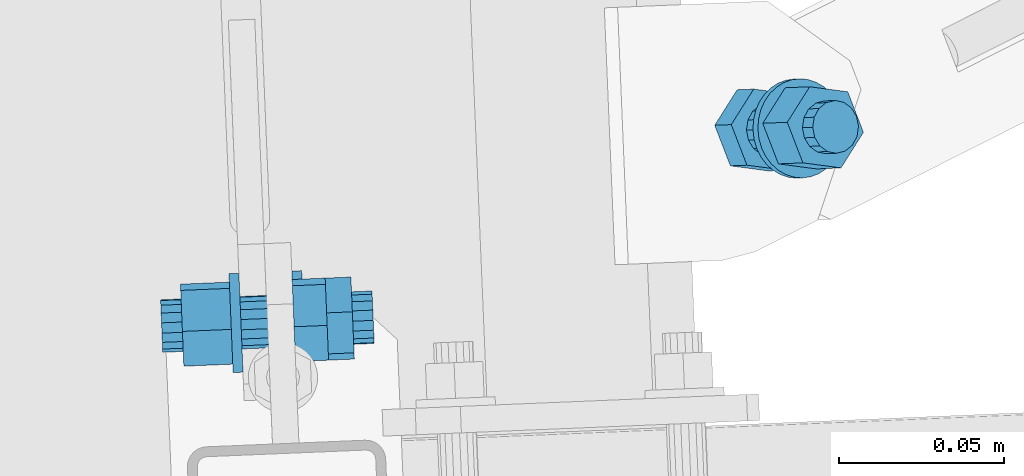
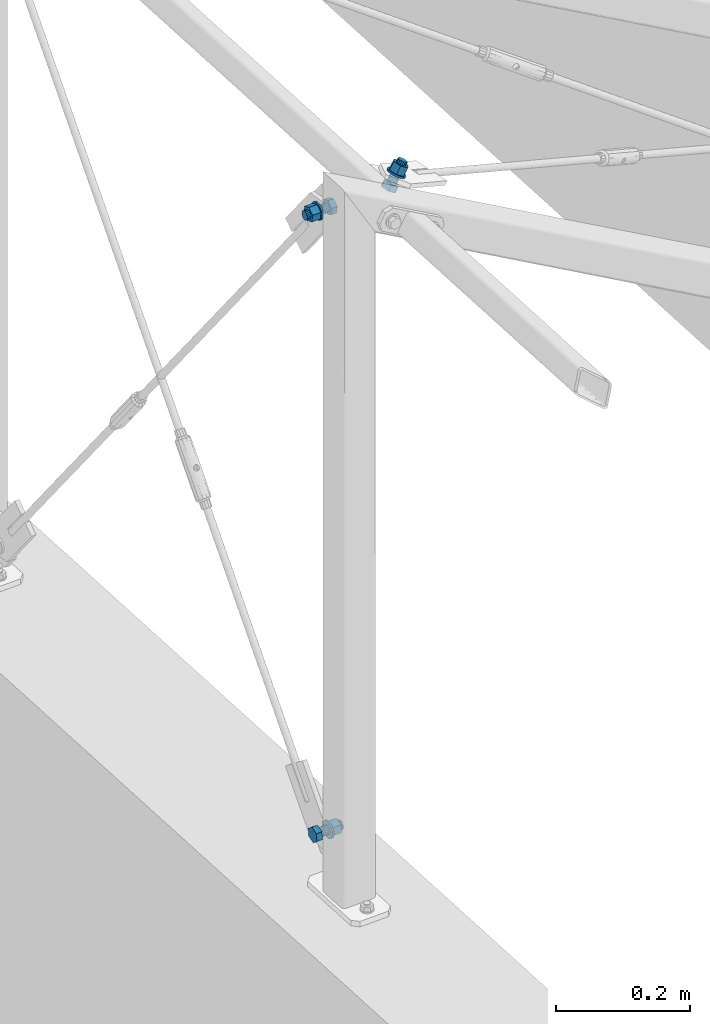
# One storey, part 215 of 288: 3 mechanical fasteners.
"""IFC2X3 building model written with IfcOpenShell, lengths in millimetres."""

from ifc_helpers import new_model, entity, si_unit, converted_unit, origin_with_axes, place, context, project, spatial, faceted_brep, element, save


model = new_model("IFC2X3")

# Units and contexts
model_context = context("Model", 3, precision=1e-09, world=origin_with_axes())
ifc_project = project(units=[si_unit("LENGTHUNIT", "METRE", prefix="MILLI"), si_unit("AREAUNIT", "SQUARE_METRE"), si_unit("VOLUMEUNIT", "CUBIC_METRE"), converted_unit("PLANEANGLEUNIT", "DEGREE", entity("IfcPlaneAngleMeasure", 0.01745329), si_unit("PLANEANGLEUNIT", "RADIAN"), dimensions=[0, 0, 0, 0, 0, 0, 0])], contexts=[model_context])

# Site, building, storey
site_placement = place(None, origin_with_axes())
site = spatial("IfcSite", under=ifc_project, at=site_placement, Name="Remont ?wietlik?w nad MC w NCPP w Opolu", CompositionType="ELEMENT")
building_placement = place(site_placement, origin_with_axes())
building = spatial("IfcBuilding", under=site, at=building_placement, Name="Konstrukcja 1", CompositionType="ELEMENT")
storey_placement = place(building_placement, origin_with_axes())
storey = spatial("IfcBuildingStorey", under=building, at=storey_placement, Name="Default Storey", CompositionType="ELEMENT", Elevation=0.0)

# Mechanical fasteners
mechanical_fastener_1_placement = place(None, origin_with_axes())
element("IfcMechanicalFastener", 1, at=mechanical_fastener_1_placement, inside=storey, ObjectType="Bolt#1", NominalDiameter=16.0, NominalLength=40.0, context=model_context, shape_type="Brep", body=[
    faceted_brep([(-289.51059821, 4038.588111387, 1206.349235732), (-279.519289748, 4039.004950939, 1206.349235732), (-279.001880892, 4026.603077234, 1211.330846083), (-288.993189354, 4026.186237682, 1211.330846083), (-278.92300943, 4024.712591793, 1224.571332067), (-288.914317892, 4024.295752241, 1224.571332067), (-279.361546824, 4035.223980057, 1232.8302077), (-289.352855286, 4034.807140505, 1232.8302077), (-279.87895568, 4047.625853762, 1227.848597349), (-289.870264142, 4047.20901421, 1227.848597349), (-279.957827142, 4049.516339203, 1214.608111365), (-289.949135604, 4049.099499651, 1214.608111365)], [[[0, 1, 2, 3]], [[3, 2, 4, 5]], [[5, 4, 6, 7]], [[7, 6, 8, 9]], [[9, 8, 10, 11]], [[11, 10, 1, 0]], [[4, 2, 1, 10, 8, 6]], [[0, 3, 5, 7, 9, 11]]]),
    faceted_brep([(-289.225812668, 4031.762031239, 1225.882376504), (-305.211906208, 4031.095087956, 1225.882376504), (-305.127201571, 4029.064786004, 1223.512963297), (-289.141108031, 4029.731729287, 1223.512963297), (-305.086740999, 4028.094978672, 1220.546272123), (-289.10064746, 4028.761921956, 1220.546272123), (-305.096684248, 4028.333310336, 1217.433954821), (-289.110590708, 4029.000253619, 1217.433954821), (-305.155517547, 4029.743497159, 1214.649833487), (-289.169424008, 4030.410440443, 1214.649833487), (-305.254284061, 4032.110850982, 1212.617765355), (-289.268190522, 4032.777794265, 1212.617765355), (-305.377947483, 4035.074963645, 1211.647114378), (-289.391853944, 4035.741906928, 1211.647114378), (-305.507681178, 4038.184575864, 1211.885653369), (-289.521587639, 4038.851519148, 1211.885653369), (-305.623734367, 4040.966277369, 1213.297066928), (-289.637640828, 4041.633220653, 1213.297066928), (-305.708439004, 4042.996579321, 1215.666480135), (-289.722345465, 4043.663522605, 1215.666480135), (-305.748899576, 4043.966386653, 1218.633171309), (-289.762806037, 4044.633329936, 1218.633171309), (-305.738956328, 4043.72805499, 1221.745488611), (-289.752862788, 4044.394998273, 1221.745488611), (-305.680123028, 4042.317868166, 1224.529609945), (-289.694029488, 4042.98481145, 1224.529609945), (-305.581356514, 4039.950514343, 1226.561678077), (-289.595262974, 4040.617457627, 1226.561678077), (-305.457693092, 4036.98640168, 1227.532329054), (-289.471599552, 4037.653344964, 1227.532329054), (-305.327959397, 4033.876789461, 1227.293790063), (-289.341865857, 4034.543732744, 1227.293790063)], [[[0, 1, 2, 3]], [[3, 2, 4, 5]], [[5, 4, 6, 7]], [[7, 6, 8, 9]], [[9, 8, 10, 11]], [[11, 10, 12, 13]], [[13, 12, 14, 15]], [[15, 14, 16, 17]], [[17, 16, 18, 19]], [[19, 18, 20, 21]], [[21, 20, 22, 23]], [[23, 22, 24, 25]], [[25, 24, 26, 27]], [[27, 26, 28, 29]], [[29, 28, 30, 31]], [[31, 30, 1, 0]], [[0, 3, 5, 7, 9, 11, 13, 15, 17, 19, 21, 23, 25, 27, 29, 31]], [[1, 30, 28, 26, 24, 22, 20, 18, 16, 14, 12, 10, 8, 6, 4, 2]]]),
    faceted_brep([(-305.031731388, 4026.776442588, 1231.388449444), (-308.029123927, 4026.651390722, 1231.388449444), (-307.940593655, 4024.529391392, 1229.354756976), (-304.943201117, 4024.654443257, 1229.354756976), (-307.870302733, 4022.844574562, 1226.94579968), (-304.872910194, 4022.969626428, 1226.94579968), (-307.820952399, 4021.661686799, 1224.254152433), (-304.82355986, 4021.786738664, 1224.254152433), (-307.79443916, 4021.026185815, 1221.38325373), (-304.797046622, 4021.151237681, 1221.38325373), (-307.791781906, 4020.962493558, 1218.443430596), (-304.794389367, 4021.087545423, 1218.443430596), (-307.813082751, 4021.473057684, 1215.547658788), (-304.815690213, 4021.59810955, 1215.547658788), (-307.857523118, 4022.538257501, 1212.807221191), (-304.86013058, 4022.663309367, 1212.807221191), (-307.923395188, 4024.117157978, 1210.327431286), (-304.926002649, 4024.242209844, 1210.327431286), (-308.008167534, 4026.149082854, 1208.203586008), (-305.010774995, 4026.274134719, 1208.203586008), (-308.108582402, 4028.555946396, 1206.517303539), (-305.111189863, 4028.680998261, 1206.517303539), (-308.220780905, 4031.245254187, 1205.33338677), (-305.223388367, 4031.370306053, 1205.33338677), (-308.340451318, 4034.113657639, 1204.697332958), (-305.34305878, 4034.238709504, 1204.697332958), (-308.462994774, 4037.050925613, 1204.633585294), (-305.465602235, 4037.175977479, 1204.633585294), (-308.583701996, 4039.944180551, 1205.144593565), (-305.586309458, 4040.069232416, 1205.144593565), (-308.697934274, 4042.682236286, 1206.210720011), (-305.700541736, 4042.807288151, 1206.210720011), (-308.801301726, 4045.159870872, 1207.790993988), (-305.803909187, 4045.284922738, 1207.790993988), (-308.889831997, 4047.281870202, 1209.824686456), (-305.892439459, 4047.406922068, 1209.824686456), (-308.96012292, 4048.966687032, 1212.233643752), (-305.962730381, 4049.091738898, 1212.233643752), (-309.009473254, 4050.149574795, 1214.925290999), (-306.012080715, 4050.274626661, 1214.925290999), (-309.035986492, 4050.785075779, 1217.796189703), (-306.038593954, 4050.910127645, 1217.796189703), (-309.038643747, 4050.848768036, 1220.736012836), (-306.041251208, 4050.973819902, 1220.736012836), (-309.017342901, 4050.33820391, 1223.631784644), (-306.019950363, 4050.463255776, 1223.631784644), (-308.972902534, 4049.273004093, 1226.372222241), (-305.975509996, 4049.398055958, 1226.372222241), (-308.907030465, 4047.694103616, 1228.852012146), (-305.909637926, 4047.819155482, 1228.852012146), (-308.822258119, 4045.66217874, 1230.975857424), (-305.82486558, 4045.787230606, 1230.975857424), (-308.721843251, 4043.255315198, 1232.662139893), (-305.724450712, 4043.380367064, 1232.662139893), (-308.609644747, 4040.566007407, 1233.846056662), (-305.612252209, 4040.691059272, 1233.846056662), (-308.489974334, 4037.697603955, 1234.482110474), (-305.492581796, 4037.822655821, 1234.482110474), (-308.367430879, 4034.760335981, 1234.545858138), (-305.37003834, 4034.885387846, 1234.545858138), (-308.246723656, 4031.867081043, 1234.034849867), (-305.249331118, 4031.992132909, 1234.034849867), (-308.132491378, 4029.129025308, 1232.968723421), (-305.13509884, 4029.254077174, 1232.968723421)], [[[0, 1, 2, 3]], [[3, 2, 4, 5]], [[5, 4, 6, 7]], [[7, 6, 8, 9]], [[9, 8, 10, 11]], [[11, 10, 12, 13]], [[13, 12, 14, 15]], [[15, 14, 16, 17]], [[17, 16, 18, 19]], [[19, 18, 20, 21]], [[21, 20, 22, 23]], [[23, 22, 24, 25]], [[25, 24, 26, 27]], [[27, 26, 28, 29]], [[29, 28, 30, 31]], [[31, 30, 32, 33]], [[33, 32, 34, 35]], [[35, 34, 36, 37]], [[37, 36, 38, 39]], [[39, 38, 40, 41]], [[41, 40, 42, 43]], [[43, 42, 44, 45]], [[45, 44, 46, 47]], [[47, 46, 48, 49]], [[49, 48, 50, 51]], [[51, 50, 52, 53]], [[53, 52, 54, 55]], [[55, 54, 56, 57]], [[57, 56, 58, 59]], [[59, 58, 60, 61]], [[61, 60, 62, 63]], [[63, 62, 1, 0]], [[0, 3, 5, 7, 9, 11, 13, 15, 17, 19, 21, 23, 25, 27, 29, 31, 33, 35, 37, 39, 41, 43, 45, 47, 49, 51, 53, 55, 57, 59, 61, 63]], [[1, 62, 60, 58, 56, 54, 52, 50, 48, 46, 44, 42, 40, 38, 36, 34, 32, 30, 28, 26, 24, 22, 20, 18, 16, 14, 12, 10, 8, 6, 4, 2]]]),
    faceted_brep([(-323.281220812, 4037.179193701, 1206.349235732), (-308.494084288, 4037.796116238, 1206.349235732), (-307.976675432, 4025.394242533, 1211.330846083), (-322.763811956, 4024.777319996, 1211.330846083), (-307.89780397, 4023.503757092, 1224.571332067), (-322.684940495, 4022.886834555, 1224.571332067), (-308.336341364, 4034.015145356, 1232.8302077), (-323.123477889, 4033.398222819, 1232.8302077), (-308.85375022, 4046.417019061, 1227.848597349), (-323.640886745, 4045.800096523, 1227.848597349), (-308.932621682, 4048.307504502, 1214.608111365), (-323.719758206, 4047.690581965, 1214.608111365)], [[[0, 1, 2, 3]], [[3, 2, 4, 5]], [[5, 4, 6, 7]], [[7, 6, 8, 9]], [[9, 8, 10, 11]], [[11, 10, 1, 0]], [[4, 2, 1, 10, 8, 6]], [[0, 3, 5, 7, 9, 11]]]),
    faceted_brep([(-322.996435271, 4030.353113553, 1225.882376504), (-329.191046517, 4030.094673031, 1225.882376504), (-329.10634188, 4028.064371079, 1223.512963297), (-322.911730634, 4028.322811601, 1223.512963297), (-329.065881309, 4027.094563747, 1220.546272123), (-322.871270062, 4027.353004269, 1220.546272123), (-329.075824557, 4027.332895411, 1217.433954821), (-322.881213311, 4027.591335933, 1217.433954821), (-329.134657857, 4028.743082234, 1214.649833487), (-322.94004661, 4029.001522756, 1214.649833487), (-329.233424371, 4031.110436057, 1212.617765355), (-323.038813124, 4031.368876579, 1212.617765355), (-329.357087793, 4034.07454872, 1211.647114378), (-323.162476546, 4034.332989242, 1211.647114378), (-329.486821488, 4037.184160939, 1211.885653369), (-323.292210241, 4037.442601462, 1211.885653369), (-329.602874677, 4039.965862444, 1213.297066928), (-323.40826343, 4040.224302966, 1213.297066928), (-329.687579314, 4041.996164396, 1215.666480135), (-323.492968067, 4042.254604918, 1215.666480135), (-329.728039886, 4042.965971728, 1218.633171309), (-323.533428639, 4043.22441225, 1218.633171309), (-329.718096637, 4042.727640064, 1221.745488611), (-323.52348539, 4042.986080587, 1221.745488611), (-329.659263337, 4041.317453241, 1224.529609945), (-323.464652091, 4041.575893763, 1224.529609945), (-329.560496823, 4038.950099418, 1226.561678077), (-323.365885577, 4039.20853994, 1226.561678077), (-329.436833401, 4035.985986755, 1227.532329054), (-323.242222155, 4036.244427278, 1227.532329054), (-329.307099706, 4032.876374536, 1227.293790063), (-323.11248846, 4033.134815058, 1227.293790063)], [[[0, 1, 2, 3]], [[3, 2, 4, 5]], [[5, 4, 6, 7]], [[7, 6, 8, 9]], [[9, 8, 10, 11]], [[11, 10, 12, 13]], [[13, 12, 14, 15]], [[15, 14, 16, 17]], [[17, 16, 18, 19]], [[19, 18, 20, 21]], [[21, 20, 22, 23]], [[23, 22, 24, 25]], [[25, 24, 26, 27]], [[27, 26, 28, 29]], [[29, 28, 30, 31]], [[31, 30, 1, 0]], [[0, 3, 5, 7, 9, 11, 13, 15, 17, 19, 21, 23, 25, 27, 29, 31]], [[1, 30, 28, 26, 24, 22, 20, 18, 16, 14, 12, 10, 8, 6, 4, 2]]]),
])
mechanical_fastener_2_placement = place(None, origin_with_axes())
element("IfcMechanicalFastener", 2, at=mechanical_fastener_2_placement, inside=storey, ObjectType="Bolt#1", NominalDiameter=16.0, NominalLength=40.0, context=model_context, shape_type="Brep", body=[
    faceted_brep([(-305.507418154, 4037.920817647, 98.650764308), (-315.498736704, 4037.504219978, 98.650764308), (-314.98162809, 4025.102333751, 93.669153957), (-304.990309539, 4025.51893142, 93.669153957), (-314.902802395, 4023.211846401, 80.428667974), (-304.911483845, 4023.62844407, 80.428667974), (-315.341085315, 4033.723245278, 72.16979234), (-305.349766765, 4034.139842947, 72.16979234), (-315.85819393, 4046.125131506, 77.151402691), (-305.866875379, 4046.541729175, 77.151402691), (-315.937019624, 4048.015618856, 90.391888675), (-305.945701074, 4048.432216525, 90.391888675)], [[[0, 1, 2, 3]], [[3, 2, 4, 5]], [[5, 4, 6, 7]], [[7, 6, 8, 9]], [[9, 8, 10, 11]], [[11, 10, 1, 0]], [[4, 2, 1, 10, 8, 6]], [[0, 3, 5, 7, 9, 11]]]),
    faceted_brep([(-305.222797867, 4031.094730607, 79.117623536), (-289.236688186, 4031.761286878, 79.117623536), (-289.152032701, 4029.730982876, 81.487036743), (-305.138142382, 4029.064426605, 81.487036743), (-289.111595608, 4028.761174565, 84.453727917), (-305.097705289, 4028.094618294, 84.453727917), (-289.121533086, 4028.999506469, 87.566045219), (-305.107642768, 4028.332950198, 87.566045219), (-289.180332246, 4030.409694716, 90.350166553), (-305.166441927, 4029.743138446, 90.350166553), (-289.279041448, 4032.777050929, 92.382234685), (-305.265151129, 4032.110494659, 92.382234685), (-289.402633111, 4035.741166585, 93.352885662), (-305.388742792, 4035.074610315, 93.352885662), (-289.532291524, 4038.850781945, 93.114346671), (-305.518401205, 4038.184225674, 93.114346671), (-289.64827737, 4041.632486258, 91.702933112), (-305.634387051, 4040.965929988, 91.702933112), (-289.732932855, 4043.66279026, 89.333519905), (-305.719042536, 4042.99623399, 89.333519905), (-289.773369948, 4044.632598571, 86.366828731), (-305.759479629, 4043.966042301, 86.366828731), (-289.763432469, 4044.394266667, 83.254511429), (-305.749542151, 4043.727710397, 83.254511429), (-289.70463331, 4042.98407842, 80.470390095), (-305.690742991, 4042.317522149, 80.470390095), (-289.605924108, 4040.616722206, 78.438321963), (-305.592033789, 4039.950165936, 78.438321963), (-289.482332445, 4037.652606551, 77.467670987), (-305.468442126, 4036.98605028, 77.467670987), (-289.352674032, 4034.542991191, 77.706209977), (-305.338783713, 4033.876434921, 77.706209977)], [[[0, 1, 2, 3]], [[3, 2, 4, 5]], [[5, 4, 6, 7]], [[7, 6, 8, 9]], [[9, 8, 10, 11]], [[11, 10, 12, 13]], [[13, 12, 14, 15]], [[15, 14, 16, 17]], [[17, 16, 18, 19]], [[19, 18, 20, 21]], [[21, 20, 22, 23]], [[23, 22, 24, 25]], [[25, 24, 26, 27]], [[27, 26, 28, 29]], [[29, 28, 30, 31]], [[31, 30, 1, 0]], [[0, 3, 5, 7, 9, 11, 13, 15, 17, 19, 21, 23, 25, 27, 29, 31]], [[1, 30, 28, 26, 24, 22, 20, 18, 16, 14, 12, 10, 8, 6, 4, 2]]]),
    faceted_brep([(-289.056617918, 4027.442637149, 73.611550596), (-286.059222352, 4027.567616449, 73.611550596), (-285.970743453, 4025.445614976, 75.645243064), (-288.968139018, 4025.320635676, 75.645243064), (-285.900493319, 4023.760796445, 78.05420036), (-288.897888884, 4023.635817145, 78.05420036), (-285.851171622, 4022.577907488, 80.745847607), (-288.848567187, 4022.452928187, 80.745847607), (-285.824673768, 4021.942405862, 83.616746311), (-288.822069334, 4021.817426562, 83.616746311), (-285.822018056, 4021.878713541, 86.556569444), (-288.819413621, 4021.75373424, 86.556569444), (-285.843306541, 4022.389278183, 89.452341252), (-288.840702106, 4022.264298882, 89.452341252), (-285.88772112, 4023.454479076, 92.192778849), (-288.885116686, 4023.329499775, 92.192778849), (-285.953554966, 4025.033381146, 94.672568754), (-288.950950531, 4024.908401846, 94.672568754), (-286.03827812, 4027.065308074, 96.796414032), (-289.035673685, 4026.940328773, 96.796414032), (-286.138634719, 4029.472174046, 98.482696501), (-289.136030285, 4029.347194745, 98.482696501), (-286.250768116, 4032.161484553, 99.66661327), (-289.248163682, 4032.036505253, 99.66661327), (-286.370369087, 4035.029890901, 100.302667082), (-289.367764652, 4034.9049116, 100.302667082), (-286.492841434, 4037.967161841, 100.366414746), (-289.490236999, 4037.842182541, 100.366414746), (-286.613478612, 4040.8604197, 99.855406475), (-289.610874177, 4040.735440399, 99.855406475), (-286.727644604, 4043.5984782, 98.78928003), (-289.725040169, 4043.473498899, 98.78928003), (-286.830952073, 4046.076115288, 97.209006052), (-289.828347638, 4045.951135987, 97.209006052), (-286.919430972, 4048.198116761, 95.175313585), (-289.916826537, 4048.07313746, 95.175313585), (-286.989681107, 4049.882935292, 92.766356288), (-289.987076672, 4049.757955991, 92.766356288), (-287.039002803, 4051.065824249, 90.074709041), (-290.036398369, 4050.940844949, 90.074709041), (-287.065500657, 4051.701325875, 87.203810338), (-290.062896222, 4051.576346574, 87.203810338), (-287.06815637, 4051.765018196, 84.263987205), (-290.065551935, 4051.640038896, 84.263987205), (-287.046867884, 4051.254453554, 81.368215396), (-290.04426345, 4051.129474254, 81.368215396), (-287.002453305, 4050.189252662, 78.6277778), (-289.99984887, 4050.064273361, 78.6277778), (-286.93661946, 4048.610350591, 76.147987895), (-289.934015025, 4048.48537129, 76.147987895), (-286.851896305, 4046.578423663, 74.024142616), (-289.849291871, 4046.453444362, 74.024142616), (-286.751539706, 4044.171557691, 72.337860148), (-289.748935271, 4044.04657839, 72.337860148), (-286.639406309, 4041.482247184, 71.153943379), (-289.636801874, 4041.357267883, 71.153943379), (-286.519805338, 4038.613840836, 70.517889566), (-289.517200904, 4038.488861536, 70.517889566), (-286.397332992, 4035.676569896, 70.454141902), (-289.394728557, 4035.551590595, 70.454141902), (-286.276695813, 4032.783312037, 70.965150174), (-289.274091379, 4032.658332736, 70.965150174), (-286.162529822, 4030.045253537, 72.031276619), (-289.159925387, 4029.920274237, 72.031276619)], [[[0, 1, 2, 3]], [[3, 2, 4, 5]], [[5, 4, 6, 7]], [[7, 6, 8, 9]], [[9, 8, 10, 11]], [[11, 10, 12, 13]], [[13, 12, 14, 15]], [[15, 14, 16, 17]], [[17, 16, 18, 19]], [[19, 18, 20, 21]], [[21, 20, 22, 23]], [[23, 22, 24, 25]], [[25, 24, 26, 27]], [[27, 26, 28, 29]], [[29, 28, 30, 31]], [[31, 30, 32, 33]], [[33, 32, 34, 35]], [[35, 34, 36, 37]], [[37, 36, 38, 39]], [[39, 38, 40, 41]], [[41, 40, 42, 43]], [[43, 42, 44, 45]], [[45, 44, 46, 47]], [[47, 46, 48, 49]], [[49, 48, 50, 51]], [[51, 50, 52, 53]], [[53, 52, 54, 55]], [[55, 54, 56, 57]], [[57, 56, 58, 59]], [[59, 58, 60, 61]], [[61, 60, 62, 63]], [[63, 62, 1, 0]], [[0, 3, 5, 7, 9, 11, 13, 15, 17, 19, 21, 23, 25, 27, 29, 31, 33, 35, 37, 39, 41, 43, 45, 47, 49, 51, 53, 55, 57, 59, 61, 63]], [[1, 62, 60, 58, 56, 54, 52, 50, 48, 46, 44, 42, 40, 38, 36, 34, 32, 30, 28, 26, 24, 22, 20, 18, 16, 14, 12, 10, 8, 6, 4, 2]]]),
    faceted_brep([(-271.736761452, 4039.328917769, 98.650764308), (-286.523912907, 4038.712353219, 98.650764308), (-286.006804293, 4026.310466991, 93.669153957), (-271.219652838, 4026.927031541, 93.669153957), (-285.927978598, 4024.419979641, 80.428667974), (-271.140827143, 4025.036544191, 80.428667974), (-286.366261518, 4034.931378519, 72.16979234), (-271.579110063, 4035.547943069, 72.16979234), (-286.883370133, 4047.333264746, 77.151402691), (-272.096218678, 4047.949829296, 77.151402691), (-286.962195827, 4049.223752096, 90.391888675), (-272.175044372, 4049.840316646, 90.391888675)], [[[0, 1, 2, 3]], [[3, 2, 4, 5]], [[5, 4, 6, 7]], [[7, 6, 8, 9]], [[9, 8, 10, 11]], [[11, 10, 1, 0]], [[4, 2, 1, 10, 8, 6]], [[0, 3, 5, 7, 9, 11]]]),
    faceted_brep([(-271.452141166, 4032.502830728, 79.117623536), (-265.257523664, 4032.761121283, 79.117623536), (-265.172868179, 4030.730817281, 81.487036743), (-271.367485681, 4030.472526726, 81.487036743), (-265.132431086, 4029.76100897, 84.453727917), (-271.327048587, 4029.502718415, 84.453727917), (-265.142368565, 4029.999340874, 87.566045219), (-271.336986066, 4029.74105032, 87.566045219), (-265.201167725, 4031.409529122, 90.350166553), (-271.395785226, 4031.151238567, 90.350166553), (-265.299876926, 4033.776885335, 92.382234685), (-271.494494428, 4033.51859478, 92.382234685), (-265.423468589, 4036.741000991, 93.352885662), (-271.618086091, 4036.482710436, 93.352885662), (-265.553127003, 4039.85061635, 93.114346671), (-271.747744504, 4039.592325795, 93.114346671), (-265.669112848, 4042.632320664, 91.702933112), (-271.86373035, 4042.374030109, 91.702933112), (-265.753768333, 4044.662624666, 89.333519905), (-271.948385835, 4044.404334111, 89.333519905), (-265.794205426, 4045.632432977, 86.366828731), (-271.988822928, 4045.374142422, 86.366828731), (-265.784267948, 4045.394101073, 83.254511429), (-271.978885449, 4045.135810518, 83.254511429), (-265.725468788, 4043.983912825, 80.470390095), (-271.920086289, 4043.725622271, 80.470390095), (-265.626759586, 4041.616556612, 78.438321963), (-271.821377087, 4041.358266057, 78.438321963), (-265.503167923, 4038.652440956, 77.467670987), (-271.697785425, 4038.394150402, 77.467670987), (-265.37350951, 4035.542825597, 77.706209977), (-271.568127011, 4035.284535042, 77.706209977)], [[[0, 1, 2, 3]], [[3, 2, 4, 5]], [[5, 4, 6, 7]], [[7, 6, 8, 9]], [[9, 8, 10, 11]], [[11, 10, 12, 13]], [[13, 12, 14, 15]], [[15, 14, 16, 17]], [[17, 16, 18, 19]], [[19, 18, 20, 21]], [[21, 20, 22, 23]], [[23, 22, 24, 25]], [[25, 24, 26, 27]], [[27, 26, 28, 29]], [[29, 28, 30, 31]], [[31, 30, 1, 0]], [[0, 3, 5, 7, 9, 11, 13, 15, 17, 19, 21, 23, 25, 27, 29, 31]], [[1, 30, 28, 26, 24, 22, 20, 18, 16, 14, 12, 10, 8, 6, 4, 2]]]),
])
mechanical_fastener_3_placement = place(None, origin_with_axes())
element("IfcMechanicalFastener", 3, at=mechanical_fastener_3_placement, inside=storey, ObjectType="Bolt#1", NominalDiameter=16.0, NominalLength=40.0, context=model_context, shape_type="Brep", body=[
    faceted_brep([(-138.856751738, 4105.154086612, 1174.267030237), (-143.864422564, 4104.945426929, 1165.613724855), (-155.381310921, 4106.468658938, 1172.241822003), (-150.373640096, 4106.677318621, 1180.895127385), (-162.161489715, 4095.725085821, 1176.424576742), (-157.153818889, 4095.933745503, 1185.077882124), (-157.42478015, 4083.458280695, 1173.979234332), (-152.417109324, 4083.666940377, 1182.632539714), (-145.907891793, 4081.935048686, 1167.351137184), (-140.900220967, 4082.143708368, 1176.004442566), (-139.127712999, 4092.678621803, 1163.168382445), (-134.120042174, 4092.887281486, 1171.821687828)], [[[0, 1, 2, 3]], [[3, 2, 4, 5]], [[5, 4, 6, 7]], [[7, 6, 8, 9]], [[9, 8, 10, 11]], [[11, 10, 1, 0]], [[4, 2, 1, 10, 8, 6]], [[0, 3, 5, 7, 9, 11]]]),
    faceted_brep([(-151.955475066, 4091.226443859, 1182.183107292), (-143.943201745, 4091.560299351, 1196.028395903), (-144.546439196, 4094.610479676, 1196.303939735), (-152.558712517, 4094.276624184, 1182.458651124), (-144.095898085, 4097.681043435, 1195.969170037), (-152.108171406, 4097.347187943, 1182.123881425), (-142.660169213, 4100.304525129, 1195.075052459), (-150.672442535, 4099.970669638, 1181.229763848), (-140.457829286, 4102.081523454, 1193.7577083), (-148.470102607, 4101.747667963, 1179.912419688), (-137.824164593, 4102.741506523, 1192.217691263), (-145.836437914, 4102.407651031, 1178.372402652), (-135.160126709, 4102.183997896, 1190.689454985), (-143.17240003, 4101.850142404, 1176.844166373), (-132.871291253, 4100.493873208, 1189.405659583), (-140.883564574, 4100.160017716, 1175.560370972), (-131.306112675, 4097.928438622, 1188.561751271), (-139.318385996, 4097.59458313, 1174.71646266), (-130.702875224, 4094.878258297, 1188.286207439), (-138.715148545, 4094.544402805, 1174.440918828), (-131.153416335, 4091.807694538, 1188.620977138), (-139.165689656, 4091.473839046, 1174.775688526), (-132.589145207, 4089.184212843, 1189.515094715), (-140.601418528, 4088.850357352, 1175.669806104), (-134.791485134, 4087.407214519, 1190.832438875), (-142.803758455, 4087.073359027, 1176.987150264), (-137.425149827, 4086.74723145, 1192.372455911), (-145.437423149, 4086.413375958, 1178.5271673), (-140.089187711, 4087.304740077, 1193.90069219), (-148.101461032, 4086.970884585, 1180.055403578), (-142.378023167, 4088.994864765, 1195.184487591), (-150.390296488, 4088.661009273, 1181.33919898)], [[[0, 1, 2, 3]], [[3, 2, 4, 5]], [[5, 4, 6, 7]], [[7, 6, 8, 9]], [[9, 8, 10, 11]], [[11, 10, 12, 13]], [[13, 12, 14, 15]], [[15, 14, 16, 17]], [[17, 16, 18, 19]], [[19, 18, 20, 21]], [[21, 20, 22, 23]], [[23, 22, 24, 25]], [[25, 24, 26, 27]], [[27, 26, 28, 29]], [[29, 28, 30, 31]], [[31, 30, 1, 0]], [[0, 3, 5, 7, 9, 11, 13, 15, 17, 19, 21, 23, 25, 27, 29, 31]], [[1, 30, 28, 26, 24, 22, 20, 18, 16, 14, 12, 10, 8, 6, 4, 2]]]),
    faceted_brep([(-149.471928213, 4088.774238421, 1199.29505293), (-147.969626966, 4088.836836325, 1201.891044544), (-148.778343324, 4091.635440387, 1202.291565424), (-150.280644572, 4091.572842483, 1199.695573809), (-149.100697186, 4094.555924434, 1202.407689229), (-150.602998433, 4094.49332653, 1199.811697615), (-148.924300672, 4097.486055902, 1202.234953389), (-150.42660192, 4097.423457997, 1199.638961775), (-148.255932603, 4100.313231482, 1201.779996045), (-149.758233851, 4100.250633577, 1199.18400443), (-147.121277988, 4102.928804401, 1201.060300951), (-148.623579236, 4102.866206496, 1198.464309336), (-145.563940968, 4105.232259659, 1200.103525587), (-147.066242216, 4105.169661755, 1197.507533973), (-143.643769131, 4107.135076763, 1198.946438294), (-145.146070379, 4107.072478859, 1196.35044668), (-141.434553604, 4108.564131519, 1197.633505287), (-142.936854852, 4108.501533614, 1195.037513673), (-139.021193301, 4109.464506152, 1196.215181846), (-140.523494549, 4109.401908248, 1193.619190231), (-136.496432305, 4109.801599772, 1194.745973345), (-137.998733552, 4109.739001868, 1192.14998173), (-133.957295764, 4109.56245806, 1193.282340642), (-135.459597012, 4109.499860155, 1190.686349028), (-131.501361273, 4108.756271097, 1191.880530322), (-133.003662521, 4108.693673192, 1189.284538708), (-129.223009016, 4107.414020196, 1190.594413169), (-130.725310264, 4107.351422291, 1187.998421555), (-127.209794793, 4105.587287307, 1189.473413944), (-128.712096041, 4105.524689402, 1186.87742233), (-125.539085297, 4103.346272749, 1188.560612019), (-127.041386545, 4103.283674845, 1185.964620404), (-124.275084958, 4100.777097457, 1187.891085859), (-125.777386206, 4100.714499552, 1185.295094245), (-123.4663686, 4097.978493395, 1187.49056498), (-124.968669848, 4097.91589549, 1184.894573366), (-123.144014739, 4095.058009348, 1187.374441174), (-124.646315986, 4094.995411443, 1184.77844956), (-123.320411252, 4092.12787788, 1187.547177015), (-124.8227125, 4092.065279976, 1184.9511854), (-123.988779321, 4089.300702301, 1188.002134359), (-125.491080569, 4089.238104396, 1185.406142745), (-125.123433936, 4086.685129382, 1188.721829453), (-126.625735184, 4086.622531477, 1186.125837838), (-126.680770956, 4084.381674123, 1189.678604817), (-128.183072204, 4084.319076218, 1187.082613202), (-128.600942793, 4082.478857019, 1190.83569211), (-130.103244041, 4082.416259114, 1188.239700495), (-130.81015832, 4081.049802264, 1192.148625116), (-132.312459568, 4080.987204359, 1189.552633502), (-133.223518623, 4080.14942763, 1193.566948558), (-134.725819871, 4080.086829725, 1190.970956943), (-135.74827962, 4079.81233401, 1195.036157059), (-137.250580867, 4079.749736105, 1192.440165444), (-138.28741616, 4080.051475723, 1196.499789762), (-139.789717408, 4079.988877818, 1193.903798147), (-140.743350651, 4080.857662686, 1197.901600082), (-142.245651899, 4080.795064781, 1195.305608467), (-143.021702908, 4082.199913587, 1199.187717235), (-144.524004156, 4082.137315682, 1196.59172562), (-145.034917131, 4084.026646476, 1200.308716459), (-146.537218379, 4083.964048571, 1197.712724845), (-146.705626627, 4086.267661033, 1201.221518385), (-148.207927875, 4086.205063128, 1198.62552677)], [[[0, 1, 2, 3]], [[3, 2, 4, 5]], [[5, 4, 6, 7]], [[7, 6, 8, 9]], [[9, 8, 10, 11]], [[11, 10, 12, 13]], [[13, 12, 14, 15]], [[15, 14, 16, 17]], [[17, 16, 18, 19]], [[19, 18, 20, 21]], [[21, 20, 22, 23]], [[23, 22, 24, 25]], [[25, 24, 26, 27]], [[27, 26, 28, 29]], [[29, 28, 30, 31]], [[31, 30, 32, 33]], [[33, 32, 34, 35]], [[35, 34, 36, 37]], [[37, 36, 38, 39]], [[39, 38, 40, 41]], [[41, 40, 42, 43]], [[43, 42, 44, 45]], [[45, 44, 46, 47]], [[47, 46, 48, 49]], [[49, 48, 50, 51]], [[51, 50, 52, 53]], [[53, 52, 54, 55]], [[55, 54, 56, 57]], [[57, 56, 58, 59]], [[59, 58, 60, 61]], [[61, 60, 62, 63]], [[63, 62, 1, 0]], [[0, 3, 5, 7, 9, 11, 13, 15, 17, 19, 21, 23, 25, 27, 29, 31, 33, 35, 37, 39, 41, 43, 45, 47, 49, 51, 53, 55, 57, 59, 61, 63]], [[1, 62, 60, 58, 56, 54, 52, 50, 48, 46, 44, 42, 40, 38, 36, 34, 32, 30, 28, 26, 24, 22, 20, 18, 16, 14, 12, 10, 8, 6, 4, 2]]]),
    faceted_brep([(-121.930824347, 4105.859356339, 1203.515202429), (-129.342177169, 4105.550540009, 1190.708310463), (-140.859065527, 4107.073772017, 1197.336407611), (-133.447712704, 4107.382588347, 1210.143299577), (-147.63924432, 4096.3301989, 1201.51916235), (-140.227891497, 4096.63901523, 1214.326054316), (-142.902534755, 4084.063393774, 1199.073819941), (-135.491181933, 4084.372210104, 1211.880711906), (-131.385646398, 4082.540161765, 1192.445722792), (-123.974293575, 4082.848978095, 1205.252614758), (-124.605467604, 4093.283734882, 1188.262968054), (-117.194114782, 4093.592551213, 1201.069860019)], [[[0, 1, 2, 3]], [[3, 2, 4, 5]], [[5, 4, 6, 7]], [[7, 6, 8, 9]], [[9, 8, 10, 11]], [[11, 10, 1, 0]], [[4, 2, 1, 10, 8, 6]], [[0, 3, 5, 7, 9, 11]]]),
    faceted_brep([(-135.029547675, 4091.931713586, 1211.431279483), (-131.924791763, 4092.061082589, 1216.79632882), (-132.528029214, 4095.111262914, 1217.071872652), (-135.632785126, 4094.981893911, 1211.706823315), (-132.077488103, 4098.181826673, 1216.737102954), (-135.182244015, 4098.052457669, 1211.372053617), (-130.641759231, 4100.805308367, 1215.842985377), (-133.746515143, 4100.675939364, 1210.47793604), (-128.439419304, 4102.582306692, 1214.525641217), (-131.544175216, 4102.452937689, 1209.16059188), (-125.805754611, 4103.242289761, 1212.985624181), (-128.910510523, 4103.112920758, 1207.620574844), (-123.141716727, 4102.684781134, 1211.457387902), (-126.246472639, 4102.555412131, 1206.092338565), (-120.852881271, 4100.994656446, 1210.1735925), (-123.957637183, 4100.865287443, 1204.808543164), (-119.287702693, 4098.429221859, 1209.329684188), (-122.392458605, 4098.299852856, 1203.964634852), (-118.684465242, 4095.379041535, 1209.054140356), (-121.789221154, 4095.249672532, 1203.68909102), (-119.135006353, 4092.308477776, 1209.388910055), (-122.239762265, 4092.179108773, 1204.023860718), (-120.570735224, 4089.684996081, 1210.283027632), (-123.675491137, 4089.555627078, 1204.917978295), (-122.773075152, 4087.907997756, 1211.600371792), (-125.877831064, 4087.778628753, 1206.235322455), (-125.406739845, 4087.248014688, 1213.140388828), (-128.511495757, 4087.118645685, 1207.775339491), (-128.070777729, 4087.805523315, 1214.668625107), (-131.175533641, 4087.676154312, 1209.30357577), (-130.359613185, 4089.495648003, 1215.952420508), (-133.464369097, 4089.366279, 1210.587371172)], [[[0, 1, 2, 3]], [[3, 2, 4, 5]], [[5, 4, 6, 7]], [[7, 6, 8, 9]], [[9, 8, 10, 11]], [[11, 10, 12, 13]], [[13, 12, 14, 15]], [[15, 14, 16, 17]], [[17, 16, 18, 19]], [[19, 18, 20, 21]], [[21, 20, 22, 23]], [[23, 22, 24, 25]], [[25, 24, 26, 27]], [[27, 26, 28, 29]], [[29, 28, 30, 31]], [[31, 30, 1, 0]], [[0, 3, 5, 7, 9, 11, 13, 15, 17, 19, 21, 23, 25, 27, 29, 31]], [[1, 30, 28, 26, 24, 22, 20, 18, 16, 14, 12, 10, 8, 6, 4, 2]]]),
])

save(model, "model.ifc")
